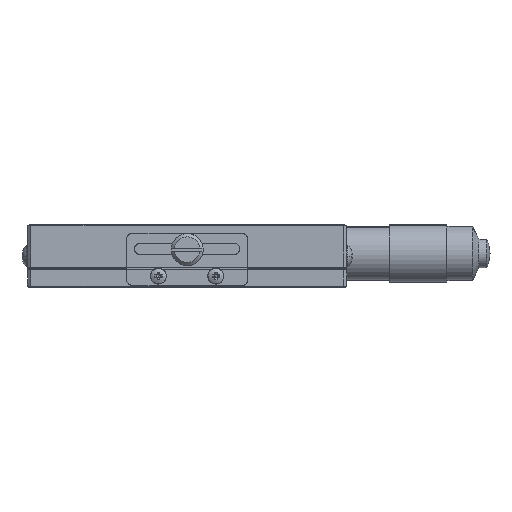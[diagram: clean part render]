
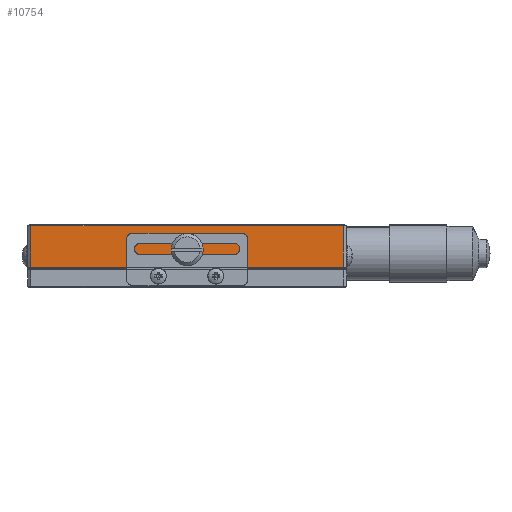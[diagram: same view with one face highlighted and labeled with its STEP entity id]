
A CAD part, front view. The second image highlights one B-rep face of the part: STEP entity #10754.
In plain terms, the highlighted planar face has unit normal (0, -1, 0).
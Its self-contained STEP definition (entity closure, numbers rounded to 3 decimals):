
#42 = VERTEX_POINT ( 'NONE', #21579 ) ;
#882 = VECTOR ( 'NONE', #6657, 1000. ) ;
#1273 = EDGE_CURVE ( 'NONE', #12954, #20317, #18278, .T. ) ;
#1916 = CARTESIAN_POINT ( 'NONE',  ( -51.5, -150., 11.8 ) ) ;
#1963 = ORIENTED_EDGE ( 'NONE', *, *, #14700, .T. ) ;
#2434 = VECTOR ( 'NONE', #12681, 1000. ) ;
#2982 = CARTESIAN_POINT ( 'NONE',  ( -50., -150., 6.3 ) ) ;
#3270 = EDGE_CURVE ( 'NONE', #20317, #12954, #12595, .T. ) ;
#3397 = EDGE_LOOP ( 'NONE', ( #18888, #10867 ) ) ;
#3658 = CARTESIAN_POINT ( 'NONE',  ( -99., -150., 19.3 ) ) ;
#3759 = VERTEX_POINT ( 'NONE', #3658 ) ;
#4290 = EDGE_CURVE ( 'NONE', #10427, #42, #21671, .T. ) ;
#4606 = EDGE_CURVE ( 'NONE', #17402, #3759, #7563, .T. ) ;
#5463 = CARTESIAN_POINT ( 'NONE',  ( -48.5, -150., 11.8 ) ) ;
#5719 = ORIENTED_EDGE ( 'NONE', *, *, #12690, .F. ) ;
#5818 = DIRECTION ( 'NONE',  ( 0., -1., 0. ) ) ;
#6657 = DIRECTION ( 'NONE',  ( -1., 0., 0. ) ) ;
#6773 = CARTESIAN_POINT ( 'NONE',  ( -50., -150., 19.3 ) ) ;
#7156 = DIRECTION ( 'NONE',  ( 0., -1., 0. ) ) ;
#7477 = CARTESIAN_POINT ( 'NONE',  ( -1., -150., 12.8 ) ) ;
#7563 = LINE ( 'NONE', #21984, #12242 ) ;
#7845 = EDGE_LOOP ( 'NONE', ( #1963, #10408, #5719, #12485 ) ) ;
#10315 = AXIS2_PLACEMENT_3D ( 'NONE', #14567, #5818, #12785 ) ;
#10408 = ORIENTED_EDGE ( 'NONE', *, *, #4606, .F. ) ;
#10427 = VERTEX_POINT ( 'NONE', #10711 ) ;
#10711 = CARTESIAN_POINT ( 'NONE',  ( -1., -150., 19.3 ) ) ;
#10754 = ADVANCED_FACE ( 'NONE', ( #12344, #15775 ), #17774, .F. ) ;
#10867 = ORIENTED_EDGE ( 'NONE', *, *, #3270, .F. ) ;
#12203 = LINE ( 'NONE', #6773, #21122 ) ;
#12242 = VECTOR ( 'NONE', #21764, 1000. ) ;
#12344 = FACE_BOUND ( 'NONE', #3397, .T. ) ;
#12485 = ORIENTED_EDGE ( 'NONE', *, *, #4290, .F. ) ;
#12595 = CIRCLE ( 'NONE', #10315, 1.5 ) ;
#12681 = DIRECTION ( 'NONE',  ( 0., 0., -1. ) ) ;
#12690 = EDGE_CURVE ( 'NONE', #42, #17402, #17177, .T. ) ;
#12785 = DIRECTION ( 'NONE',  ( 1., 0., 0. ) ) ;
#12818 = DIRECTION ( 'NONE',  ( 1., 0., 0. ) ) ;
#12954 = VERTEX_POINT ( 'NONE', #5463 ) ;
#14567 = CARTESIAN_POINT ( 'NONE',  ( -50., -150., 11.8 ) ) ;
#14700 = EDGE_CURVE ( 'NONE', #10427, #3759, #12203, .T. ) ;
#15775 = FACE_OUTER_BOUND ( 'NONE', #7845, .T. ) ;
#17177 = LINE ( 'NONE', #2982, #882 ) ;
#17402 = VERTEX_POINT ( 'NONE', #21883 ) ;
#17660 = DIRECTION ( 'NONE',  ( -1., 0., 0. ) ) ;
#17774 = PLANE ( 'NONE',  #18573 ) ;
#18278 = CIRCLE ( 'NONE', #20946, 1.5 ) ;
#18573 = AXIS2_PLACEMENT_3D ( 'NONE', #21097, #23339, #17660 ) ;
#18888 = ORIENTED_EDGE ( 'NONE', *, *, #1273, .F. ) ;
#20317 = VERTEX_POINT ( 'NONE', #1916 ) ;
#20946 = AXIS2_PLACEMENT_3D ( 'NONE', #23363, #7156, #12818 ) ;
#21097 = CARTESIAN_POINT ( 'NONE',  ( -1., -150., 6.3 ) ) ;
#21122 = VECTOR ( 'NONE', #22736, 1000. ) ;
#21579 = CARTESIAN_POINT ( 'NONE',  ( -1., -150., 6.3 ) ) ;
#21671 = LINE ( 'NONE', #7477, #2434 ) ;
#21764 = DIRECTION ( 'NONE',  ( 0., 0., 1. ) ) ;
#21883 = CARTESIAN_POINT ( 'NONE',  ( -99., -150., 6.3 ) ) ;
#21984 = CARTESIAN_POINT ( 'NONE',  ( -99., -150., 12.8 ) ) ;
#22736 = DIRECTION ( 'NONE',  ( -1., 0., 0. ) ) ;
#23339 = DIRECTION ( 'NONE',  ( 0., 1., 0. ) ) ;
#23363 = CARTESIAN_POINT ( 'NONE',  ( -50., -150., 11.8 ) ) ;
